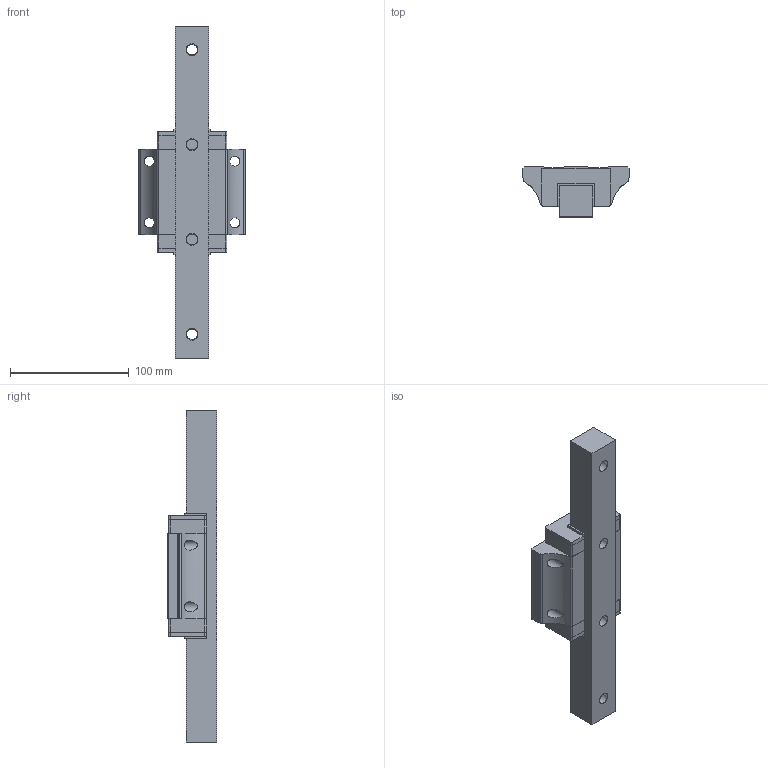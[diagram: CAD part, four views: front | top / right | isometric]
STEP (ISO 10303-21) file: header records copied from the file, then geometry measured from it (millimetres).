
FILE_DESCRIPTION((''),'2;1');
FILE_NAME('E:\PDF郪磁芞\DFH30A.STP','2018-01-27T14:15:49',(''),(''),'STEP Write','Mastercam V9 ... CNC Software, Inc.','');
FILE_SCHEMA(('CONFIG_CONTROL_DESIGN'));
Length unit declared in the file: millimetre
Bounding box: 90 x 42 x 280 mm (x, y, z)
Volume: 376553.4 mm3; surface area: 77059.9 mm2
Topology: 6 solids, 6 shells, 124 faces, 618 edges, 800 vertices
Faces by surface type: plane 84, cylinder 32, cone 8
Full cylindrical faces by diameter (mm): 8.5 x4, 9 x4, 14 x4
Entity records: 6788 total; most frequent: CARTESIAN_POINT 2433, DIRECTION 951, ORIENTED_EDGE 616, VECTOR 429, LINE 429, EDGE_CURVE 308, TRIMMED_CURVE 282, AXIS2_PLACEMENT_3D 261
